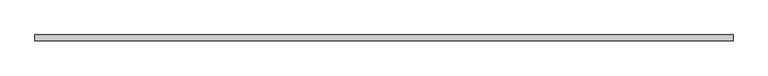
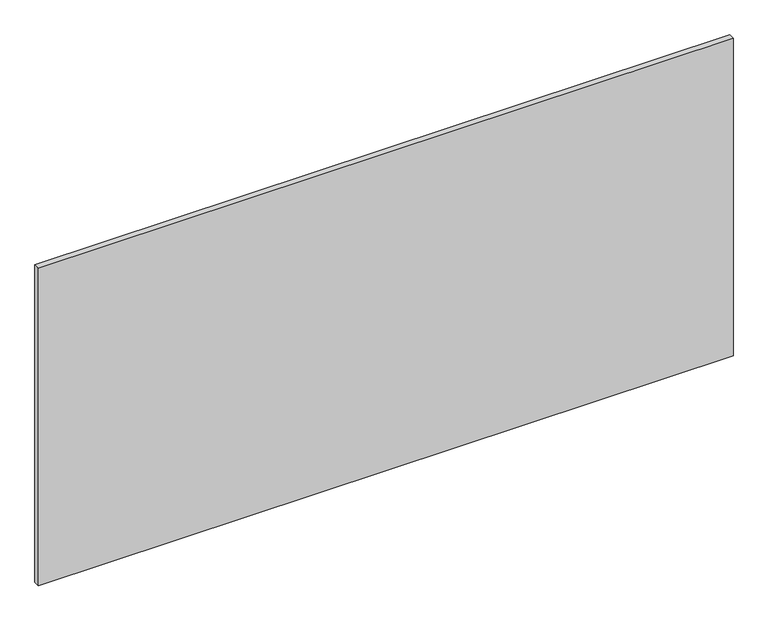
"""IFC4 building model written with IfcOpenShell, lengths in millimetres: plate geometry, Системная панель : С остеклением."""

from ifc_helpers import new_model, si_unit, origin, origin_with_axes, place, context, project, spatial, polyline, outline, extrude, source, transform, mapped, element, save


def plate_5bf30171(model_context):
    return source(origin(), model_context, "Body", "SweptSolid", [
        extrude(outline(polyline([(1475.0, -49.5), (-1475.0, -49.5), (-1475.0, -24.5), (1475.0, -24.5), (1475.0, -49.5)])), origin_with_axes(), (0.0, 0.0, 1.0), 1425.0),
    ])


if __name__ == "__main__":
    model = new_model("IFC4")
    model_context = context("Model", 3, world=origin())
    ifc_project = project(units=[si_unit("LENGTHUNIT", "METRE", prefix="MILLI")], contexts=[model_context])
    site = spatial("IfcSite", under=ifc_project)
    building = spatial("IfcBuilding", under=site)
    placement = place(None, origin())
    plate_shape = plate_5bf30171(model_context)
    element("IfcPlate", 1, ObjectType="Системная панель : С остеклением", at=placement, inside=building, context=model_context, shape_type="MappedRepresentation", body=[
        mapped(plate_shape, transform((0.0, 0.0, 0.0), x_axis=(1.0, 0.0, 0.0), y_axis=(0.0, 1.0, 0.0), z_axis=(0.0, 0.0, 1.0))),
    ])
    save(model, "model.ifc")
